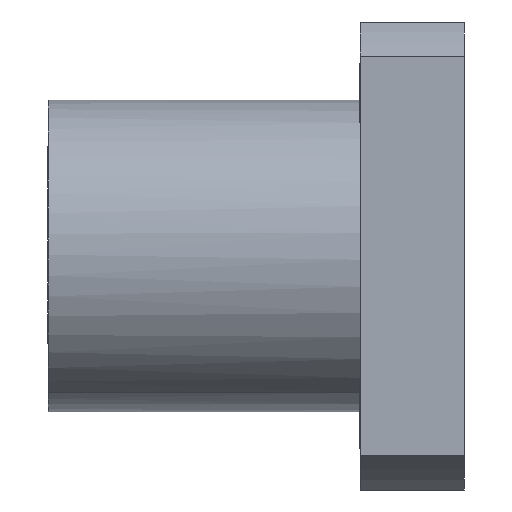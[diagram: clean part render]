
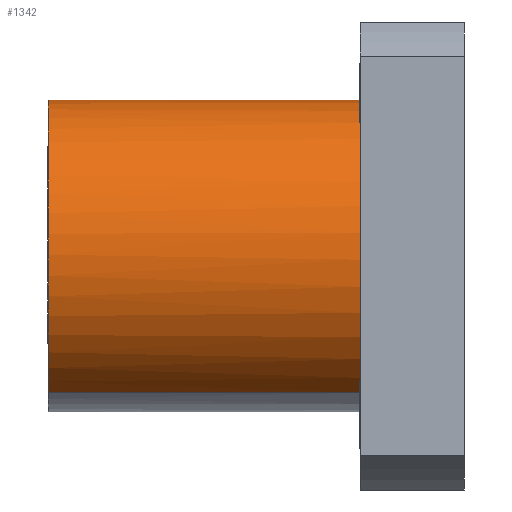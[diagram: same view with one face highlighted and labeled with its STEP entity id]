
A CAD part, front view. The second image highlights one B-rep face of the part: STEP entity #1342.
In plain terms, the highlighted cylindrical face has radius 15 mm (diameter 30 mm), a partial arc.
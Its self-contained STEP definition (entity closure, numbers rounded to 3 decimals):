
#1039=CARTESIAN_POINT('Vertex',(-10.,7.191,13.164)) ;
#1041=CARTESIAN_POINT('Vertex',(-10.,-7.191,-13.164)) ;
#1044=CARTESIAN_POINT('Axis2P3D Location',(-10.,0.,0.)) ;
#1166=CARTESIAN_POINT('Vertex',(-40.,-7.191,-13.164)) ;
#1168=CARTESIAN_POINT('Vertex',(-40.,7.191,13.164)) ;
#1172=CARTESIAN_POINT('Control Point',(-40.,-7.191,-13.164)) ;
#1173=CARTESIAN_POINT('Control Point',(-40.,-8.523,-12.436)) ;
#1174=CARTESIAN_POINT('Control Point',(-40.,-9.763,-11.54)) ;
#1175=CARTESIAN_POINT('Control Point',(-40.,-10.883,-10.491)) ;
#1176=CARTESIAN_POINT('Control Point',(-40.,-12.832,-8.132)) ;
#1177=CARTESIAN_POINT('Control Point',(-40.,-14.133,-5.362)) ;
#1178=CARTESIAN_POINT('Control Point',(-40.,-14.604,-3.902)) ;
#1179=CARTESIAN_POINT('Control Point',(-40.,-15.166,-0.894)) ;
#1180=CARTESIAN_POINT('Control Point',(-40.,-14.961,2.159)) ;
#1181=CARTESIAN_POINT('Control Point',(-40.,-14.665,3.665)) ;
#1182=CARTESIAN_POINT('Control Point',(-40.,-13.699,6.568)) ;
#1183=CARTESIAN_POINT('Control Point',(-40.,-12.04,9.14)) ;
#1184=CARTESIAN_POINT('Control Point',(-40.,-11.051,10.313)) ;
#1185=CARTESIAN_POINT('Control Point',(-40.,-8.799,12.384)) ;
#1186=CARTESIAN_POINT('Control Point',(-40.,-6.102,13.83)) ;
#1187=CARTESIAN_POINT('Control Point',(-40.,-4.668,14.377)) ;
#1188=CARTESIAN_POINT('Control Point',(-40.,-1.694,15.097)) ;
#1189=CARTESIAN_POINT('Control Point',(-40.,1.365,15.054)) ;
#1190=CARTESIAN_POINT('Control Point',(-40.,2.884,14.838)) ;
#1191=CARTESIAN_POINT('Control Point',(-40.,4.668,14.348)) ;
#1192=CARTESIAN_POINT('Control Point',(-40.,6.344,13.598)) ;
#1193=CARTESIAN_POINT('Control Point',(-40.,6.63,13.461)) ;
#1194=CARTESIAN_POINT('Control Point',(-40.,6.913,13.316)) ;
#1195=CARTESIAN_POINT('Control Point',(-40.,7.191,13.164)) ;
#1314=CARTESIAN_POINT('Line Origine',(-88.411,7.191,13.164)) ;
#1319=CARTESIAN_POINT('Line Origine',(-88.411,-7.191,-13.164)) ;
#1331=CARTESIAN_POINT('Axis2P3D Location',(-88.411,0.,0.)) ;
#1045=DIRECTION('Axis2P3D Direction',(-1.,0.,0.)) ;
#1315=DIRECTION('Vector Direction',(-1.,0.,0.)) ;
#1320=DIRECTION('Vector Direction',(-1.,0.,0.)) ;
#1332=DIRECTION('Axis2P3D Direction',(-1.,0.,0.)) ;
#1333=DIRECTION('Axis2P3D XDirection',(0.,-0.479,-0.878)) ;
#1046=AXIS2_PLACEMENT_3D('Circle Axis2P3D',#1044,#1045,$) ;
#1334=AXIS2_PLACEMENT_3D('Cylinder Axis2P3D',#1331,#1332,#1333) ;
#1337=ORIENTED_EDGE('',*,*,#1323,.F.) ;
#1338=ORIENTED_EDGE('',*,*,#1048,.T.) ;
#1339=ORIENTED_EDGE('',*,*,#1318,.T.) ;
#1340=ORIENTED_EDGE('',*,*,#1196,.T.) ;
#1316=VECTOR('Line Direction',#1315,1.) ;
#1321=VECTOR('Line Direction',#1320,1.) ;
#1342=ADVANCED_FACE('PartBody',(#1341),#1335,.T.) ;
#1171=B_SPLINE_CURVE_WITH_KNOTS('',5,(#1172,#1173,#1174,#1175,#1176,#1177,#1178,#1179,#1180,#1181,#1182,#1183,#1184,#1185,#1186,#1187,#1188,#1189,#1190,#1191,#1192,#1193,#1194,#1195),.UNSPECIFIED.,.F.,.U.,(6,3,3,3,3,3,3,6),(0.,10.733,21.466,32.199,42.932,53.665,64.398,66.642),.UNSPECIFIED.) ;
#1047=CIRCLE('generated circle',#1046,15.) ;
#1335=CYLINDRICAL_SURFACE('generated cylinder',#1334,15.) ;
#1048=EDGE_CURVE('',#1042,#1040,#1047,.T.) ;
#1196=EDGE_CURVE('',#1169,#1167,#1171,.F.) ;
#1318=EDGE_CURVE('',#1040,#1169,#1317,.T.) ;
#1323=EDGE_CURVE('',#1042,#1167,#1322,.T.) ;
#1336=EDGE_LOOP('',(#1337,#1338,#1339,#1340)) ;
#1341=FACE_OUTER_BOUND('',#1336,.T.) ;
#1317=LINE('Line',#1314,#1316) ;
#1322=LINE('Line',#1319,#1321) ;
#1040=VERTEX_POINT('',#1039) ;
#1042=VERTEX_POINT('',#1041) ;
#1167=VERTEX_POINT('',#1166) ;
#1169=VERTEX_POINT('',#1168) ;
